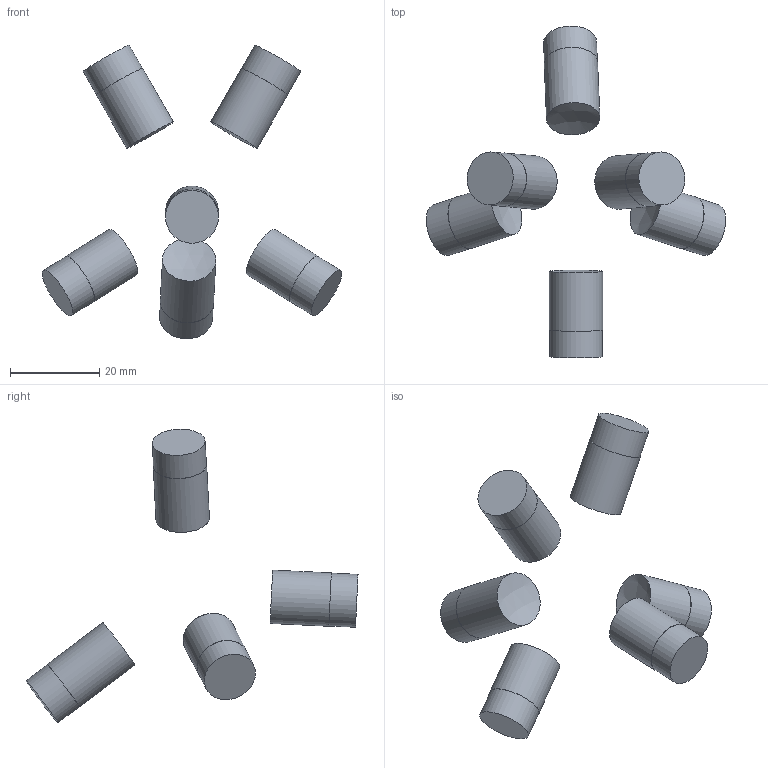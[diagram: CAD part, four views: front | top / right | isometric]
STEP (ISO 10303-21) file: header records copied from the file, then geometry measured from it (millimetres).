
FILE_DESCRIPTION(('Open CASCADE Model'),'2;1');
FILE_NAME('Open CASCADE Shape Model','2026-10-21T12:47:57',('Author'),( 'Open CASCADE'),'Open CASCADE STEP processor 7.9','Open CASCADE 7.9' ,'Unknown');
FILE_SCHEMA(('AUTOMOTIVE_DESIGN { 1 0 10303 214 1 1 1 1 }'));
Length unit declared in the file: millimetre
Products named in the file (1): Open CASCADE STEP translator 7.9 126
Bounding box: 67.29 x 74.59 x 65.99 mm (x, y, z)
Volume: 12778.1 mm3; surface area: 5748.7 mm2
Topology: 5 solids, 5 shells, 29 faces, 41 edges, 28 vertices
Faces by surface type: cylinder 12, plane 12, sphere 5
Full cylindrical faces by diameter (mm): 11.9 x6, 12 x6
Entity records: 1596 total; most frequent: CARTESIAN_POINT 612, DIRECTION 202, ORIENTED_EDGE 86, PCURVE 86, DEFINITIONAL_REPRESENTATION 86, LINE 70, VECTOR 70, AXIS2_PLACEMENT_3D 57
